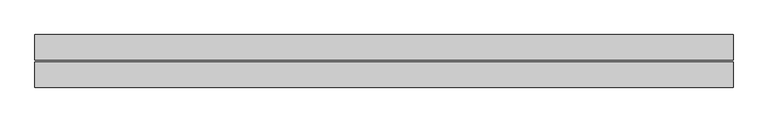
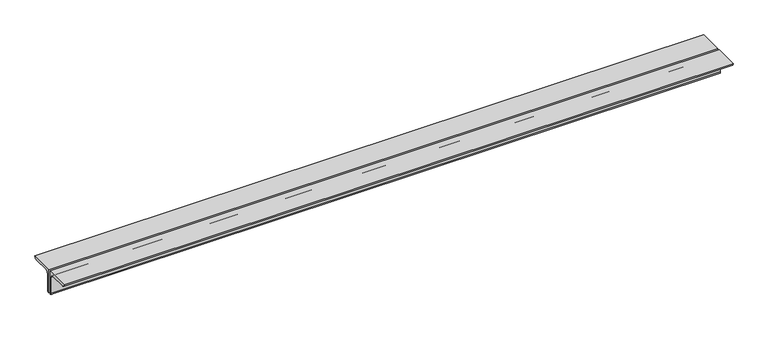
"""IFC4 building model written with IfcOpenShell, lengths in millimetres: beam geometry, Profilati doppi a L : DCED150x12."""

from ifc_helpers import new_model, si_unit, point, frame, frame_2d, origin, place, context, project, spatial, polyline, circle_curve, trimmed, segment, composite_curve, outline, extrude, source, transform, mapped, element, save


def beam_890411bb(model_context):
    return source(origin(), model_context, "Body", "SweptSolid", [
        extrude(outline(composite_curve([segment(polyline([(6.0, 42.4), (156.0, 42.4)]), True, "CONTINUOUS"), segment(trimmed(circle_curve(frame_2d((141.0, 42.4)), 15.0), [point((156.0, 42.4))], [point((141.0, 27.4))], False, "CARTESIAN"), True, "CONTINUOUS"), segment(polyline([(141.0, 27.4), (36.0, 27.4)]), True, "CONTINUOUS"), segment(trimmed(circle_curve(frame_2d((36.0, 12.4)), 15.0), [point((36.0, 27.4))], [point((21.0, 12.4))], True, "CARTESIAN"), True, "CONTINUOUS"), segment(polyline([(21.0, 12.4), (21.0, -92.6)]), True, "CONTINUOUS"), segment(trimmed(circle_curve(frame_2d((6.0, -92.6)), 15.0), [point((21.0, -92.6))], [point((6.0, -107.6))], False, "CARTESIAN"), True, "CONTINUOUS"), segment(polyline([(6.0, -107.6), (6.0, 42.4)]), True, "CONTINUOUS")], self_intersect=False)), frame((-2080.0, 0.0, 0.0), z_axis=(1.0, 0.0, 0.0), x_axis=(0.0, 1.0, 0.0)), (0.0, 0.0, 1.0), 4139.0),
        extrude(outline(composite_curve([segment(polyline([(-6.0, 42.4), (-6.0, -107.6)]), True, "CONTINUOUS"), segment(trimmed(circle_curve(frame_2d((-6.0, -92.6)), 15.0), [point((-6.0, -107.6))], [point((-21.0, -92.6))], False, "CARTESIAN"), True, "CONTINUOUS"), segment(polyline([(-21.0, -92.6), (-21.0, 12.4)]), True, "CONTINUOUS"), segment(trimmed(circle_curve(frame_2d((-36.0, 12.4)), 15.0), [point((-21.0, 12.4))], [point((-36.0, 27.4))], True, "CARTESIAN"), True, "CONTINUOUS"), segment(polyline([(-36.0, 27.4), (-141.0, 27.4)]), True, "CONTINUOUS"), segment(trimmed(circle_curve(frame_2d((-141.0, 42.4)), 15.0), [point((-141.0, 27.4))], [point((-156.0, 42.4))], False, "CARTESIAN"), True, "CONTINUOUS"), segment(polyline([(-156.0, 42.4), (-6.0, 42.4)]), True, "CONTINUOUS")], self_intersect=False)), frame((-2080.0, 0.0, 0.0), z_axis=(1.0, 0.0, 0.0), x_axis=(0.0, 1.0, 0.0)), (0.0, 0.0, 1.0), 4139.0),
    ])


if __name__ == "__main__":
    model = new_model("IFC4")
    model_context = context("Model", 3, world=origin())
    ifc_project = project(units=[si_unit("LENGTHUNIT", "METRE", prefix="MILLI")], contexts=[model_context])
    site = spatial("IfcSite", under=ifc_project)
    building = spatial("IfcBuilding", under=site)
    placement = place(None, origin())
    beam_shape = beam_890411bb(model_context)
    element("IfcBeam", 1, ObjectType="Profilati doppi a L : DCED150x12", at=placement, inside=building, context=model_context, shape_type="MappedRepresentation", body=[
        mapped(beam_shape, transform((0.0, 0.0, 0.0), x_axis=(1.0, 0.0, 0.0), y_axis=(0.0, 1.0, 0.0), z_axis=(0.0, 0.0, 1.0))),
    ])
    save(model, "model.ifc")
